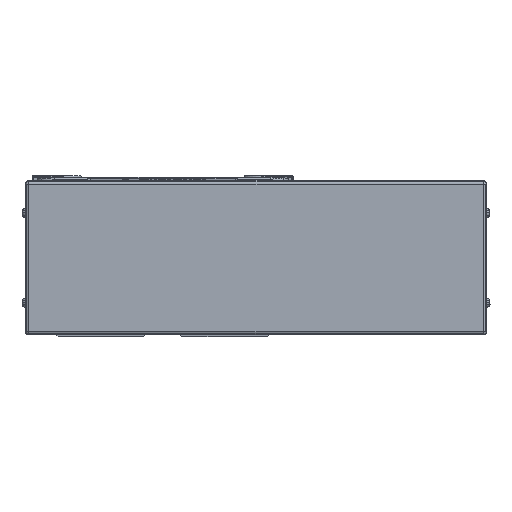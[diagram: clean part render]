
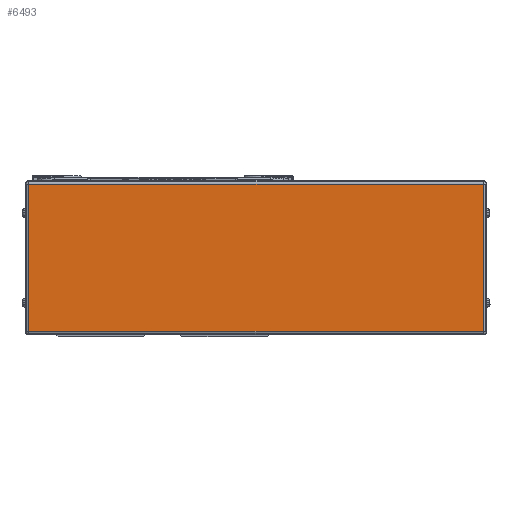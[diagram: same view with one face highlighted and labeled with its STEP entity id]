
A CAD part, left-side view. The second image highlights one B-rep face of the part: STEP entity #6493.
In plain terms, the highlighted planar face has unit normal (-1, 0, 0).
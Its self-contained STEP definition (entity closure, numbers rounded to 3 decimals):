
#6493=ADVANCED_FACE('',(#13739),#13740,.T.);
#13739=FACE_OUTER_BOUND('',#22764,.T.);
#13740=PLANE('',#22765);
#22764=EDGE_LOOP('',(#40969,#40970,#40971,#40972));
#22765=AXIS2_PLACEMENT_3D('',#40973,#40974,#40975);
#40969=ORIENTED_EDGE('',*,*,#50419,.F.);
#40970=ORIENTED_EDGE('',*,*,#51955,.F.);
#40971=ORIENTED_EDGE('',*,*,#53452,.F.);
#40972=ORIENTED_EDGE('',*,*,#55456,.F.);
#40973=CARTESIAN_POINT('',(-45.,-180.5,0.));
#40974=DIRECTION('',(-1.0,0.,0.));
#40975=DIRECTION('',(0.,0.,1.0));
#50419=EDGE_CURVE('',#60424,#60426,#60427,.T.);
#51955=EDGE_CURVE('',#63010,#60424,#63012,.T.);
#53452=EDGE_CURVE('',#65323,#63010,#65325,.T.);
#55456=EDGE_CURVE('',#60426,#65323,#68196,.T.);
#60424=VERTEX_POINT('',#74389);
#60426=VERTEX_POINT('',#74391);
#60427=LINE('',#74392,#74393);
#63010=VERTEX_POINT('',#77965);
#63012=LINE('',#77967,#77968);
#65323=VERTEX_POINT('',#81189);
#65325=LINE('',#81191,#81192);
#68196=LINE('',#85225,#85226);
#74389=CARTESIAN_POINT('',(-45.,-178.5,41.));
#74391=CARTESIAN_POINT('',(-45.,-178.5,-41.));
#74392=CARTESIAN_POINT('',(-45.,-178.5,0.));
#74393=VECTOR('',#91471,10.0);
#77965=CARTESIAN_POINT('',(-45.,74.5,41.));
#77967=CARTESIAN_POINT('',(-45.,-180.5,41.));
#77968=VECTOR('',#93523,10.0);
#81189=CARTESIAN_POINT('',(-45.,74.5,-41.));
#81191=CARTESIAN_POINT('',(-45.,74.5,0.));
#81192=VECTOR('',#95549,10.0);
#85225=CARTESIAN_POINT('',(-45.,-180.5,-41.));
#85226=VECTOR('',#98072,10.0);
#91471=DIRECTION('',(0.,0.,-1.0));
#93523=DIRECTION('',(0.,-1.0,0.));
#95549=DIRECTION('',(0.,0.,1.0));
#98072=DIRECTION('',(0.,1.0,0.));
